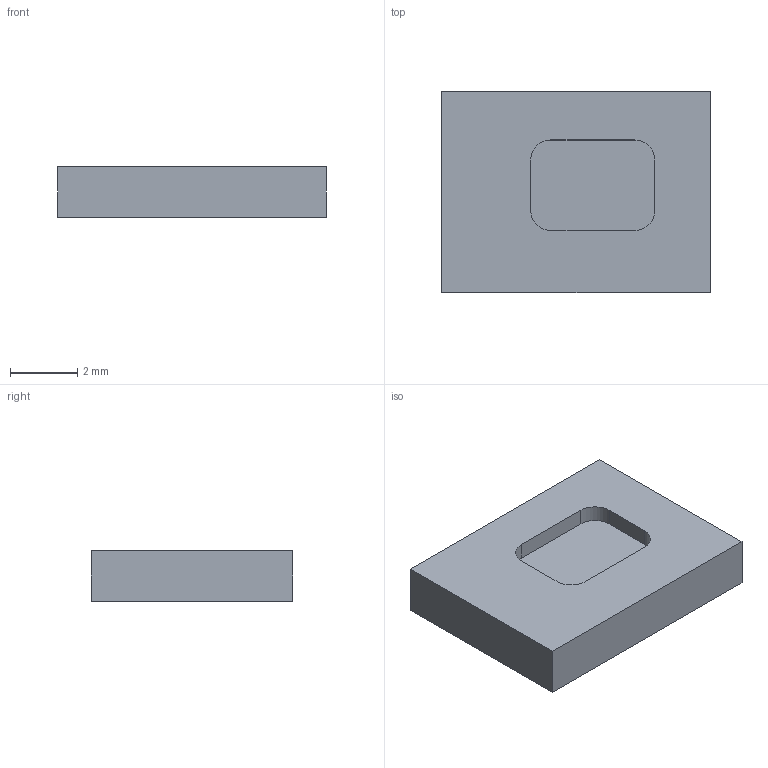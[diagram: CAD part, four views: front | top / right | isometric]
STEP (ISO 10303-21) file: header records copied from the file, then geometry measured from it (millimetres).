
FILE_DESCRIPTION(('FreeCAD Model'),'2;1');
FILE_NAME('Open CASCADE Shape Model','2026-11-02T20:21:27',('FreeCAD'),( 'FreeCAD'),'Open CASCADE STEP processor 7.8','FreeCAD','Unknown');
FILE_SCHEMA(('AUTOMOTIVE_DESIGN { 1 0 10303 214 1 1 1 1 }'));
Length unit declared in the file: millimetre
Products named in the file (1): Open CASCADE STEP translator 7.8 8
Bounding box: 8 x 6 x 1.5 mm (x, y, z)
Volume: 67.2 mm3; surface area: 143.9 mm2
Topology: 1 solids, 1 shells, 15 faces, 36 edges, 24 vertices
Faces by surface type: plane 11, cylinder 4
Entity records: 448 total; most frequent: CARTESIAN_POINT 76, DIRECTION 76, ORIENTED_EDGE 72, EDGE_CURVE 36, LINE 28, VECTOR 28, AXIS2_PLACEMENT_3D 24, VERTEX_POINT 24
